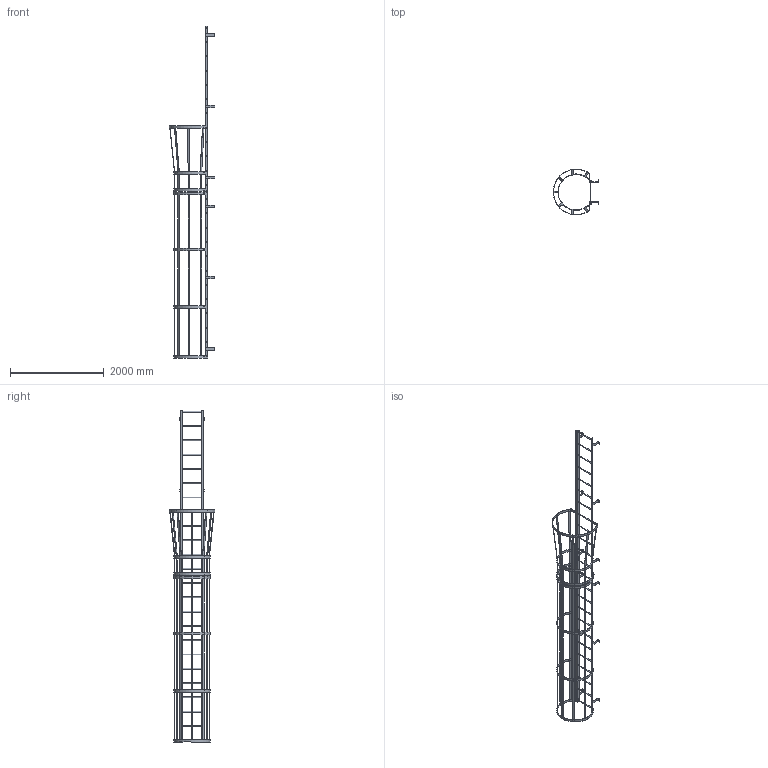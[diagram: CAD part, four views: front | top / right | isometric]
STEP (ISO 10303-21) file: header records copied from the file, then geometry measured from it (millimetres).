
FILE_DESCRIPTION(/* description */ (''),/* implementation_level */ '2;1');
FILE_NAME(/* name */ 'P:\MIKEL & KAREN\D0570195-10 F24SC SIMPLIFIED PART.stp',/* time_stamp */ '2018-07-03T08:07:24-04:00',/* author */ ('stephanie'),/* organization */ (''),/* preprocessor_version */ 'ST-DEVELOPER v16.1',/* originating_system */ 'Autodesk Inventor 2016',/* authorisation */ '');
FILE_SCHEMA (('AUTOMOTIVE_DESIGN { 1 0 10303 214 3 1 1 }'));
Length unit declared in the file: centimetre
Products named in the file (1): D0570195-10 F24SC SIMPLIFIED PART
Bounding box: 974.15 x 977.88 x 7086.6 mm (x, y, z)
Volume: 23314934 mm3; surface area: 8212424.7 mm2
Topology: 39 solids, 41 shells, 771 faces, 2185 edges, 1398 vertices
Faces by surface type: plane 498, cylinder 241, cone 32
Full cylindrical faces by diameter (mm): 12.7 x4, 14.287 x14, 16.193 x2, 19.05 x26, 22.225 x48
Entity records: 25005 total; most frequent: CARTESIAN_POINT 4229, ORIENTED_EDGE 4190, DIRECTION 4109, EDGE_CURVE 2011, AXIS2_PLACEMENT_3D 1386, LINE 1337, VECTOR 1337, VERTEX_POINT 1326
